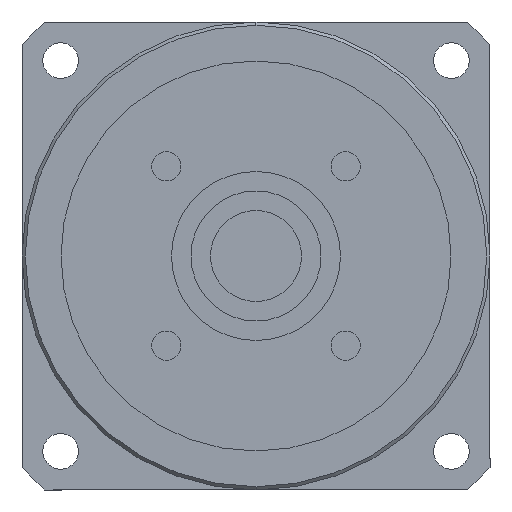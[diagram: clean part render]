
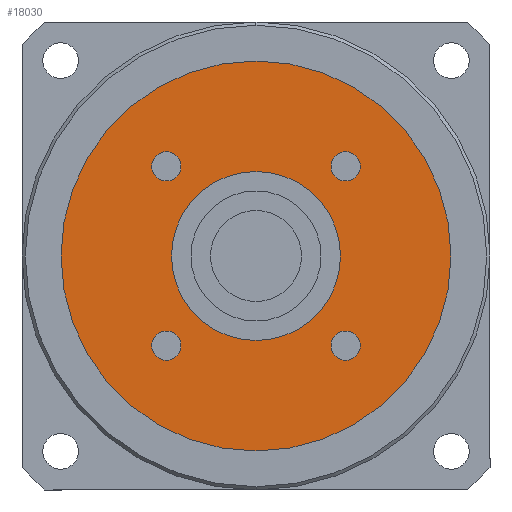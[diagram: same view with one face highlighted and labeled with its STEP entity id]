
A CAD part, left-side view. The second image highlights one B-rep face of the part: STEP entity #18030.
In plain terms, the highlighted planar face has unit normal (-1, 0, 0) as drawn and (0, 0, -1) by its records, which use the part's own axes.
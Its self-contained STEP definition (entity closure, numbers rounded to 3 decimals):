
#15130=CARTESIAN_POINT('',(-13.,0.,-91.));
#15140=VERTEX_POINT('',#15130);
#15320=CARTESIAN_POINT('',(13.,0.,-91.));
#15330=VERTEX_POINT('',#15320);
#15360=CARTESIAN_POINT('',(0.,0.,
-91.));
#15370=DIRECTION('',(0.,0.,1.));
#15380=DIRECTION('',(0.,-1.,0.));
#15390=AXIS2_PLACEMENT_3D('',#15360,#15370,#15380);
#15400=CIRCLE('',#15390,13.);
#15410=EDGE_CURVE('',#15330,#15140,#15400,.T.);
#15550=CARTESIAN_POINT('',(-11.539,-13.789,-91.));
#15560=VERTEX_POINT('',#15550);
#15740=CARTESIAN_POINT('',(-16.039,-13.789,-91.));
#15750=VERTEX_POINT('',#15740);
#15780=CARTESIAN_POINT('',(-13.789,-13.789,-91.));
#15790=DIRECTION('',(0.,0.,-1.));
#15800=DIRECTION('',(0.,-1.,0.));
#15810=AXIS2_PLACEMENT_3D('',#15780,#15790,#15800);
#15820=CIRCLE('',#15810,2.25);
#15830=EDGE_CURVE('',#15560,#15750,#15820,.T.);
#17150=CARTESIAN_POINT('',(30.,0.,-91.));
#17160=VERTEX_POINT('',#17150);
#17240=CARTESIAN_POINT('',(-30.,0.,-91.));
#17250=VERTEX_POINT('',#17240);
#17280=CARTESIAN_POINT('',(0.,0.,
-91.));
#17290=DIRECTION('',(0.,0.,1.));
#17300=DIRECTION('',(0.,-1.,0.));
#17310=AXIS2_PLACEMENT_3D('',#17280,#17290,#17300);
#17320=CIRCLE('',#17310,30.);
#17330=EDGE_CURVE('',#17160,#17250,#17320,.T.);
#17380=CARTESIAN_POINT('',(0.,0.,
-91.));
#17390=DIRECTION('',(0.,0.,1.));
#17400=DIRECTION('',(-1.,0.,0.));
#17410=AXIS2_PLACEMENT_3D('',#17380,#17390,#17400);
#17420=PLANE('',#17410);
#17430=CARTESIAN_POINT('',(13.789,-13.789,-91.));
#17440=DIRECTION('',(0.,0.,-1.));
#17450=DIRECTION('',(1.,0.,0.));
#17460=AXIS2_PLACEMENT_3D('',#17430,#17440,#17450);
#17470=CIRCLE('',#17460,2.25);
#17480=CARTESIAN_POINT('',(13.789,-11.539,-91.));
#17490=VERTEX_POINT('',#17480);
#17500=CARTESIAN_POINT('',(13.789,-16.039,-91.));
#17510=VERTEX_POINT('',#17500);
#17520=EDGE_CURVE('',#17490,#17510,#17470,.T.);
#17530=ORIENTED_EDGE('',*,*,#17520,.F.);
#17540=EDGE_CURVE('',#17510,#17490,#17470,.T.);
#17550=ORIENTED_EDGE('',*,*,#17540,.F.);
#17560=EDGE_LOOP('',(#17550,#17530));
#17570=FACE_BOUND('',#17560,.T.);
#17580=CARTESIAN_POINT('',(13.789,13.789,-91.));
#17590=DIRECTION('',(0.,0.,-1.));
#17600=DIRECTION('',(0.,1.,0.));
#17610=AXIS2_PLACEMENT_3D('',#17580,#17590,#17600);
#17620=CIRCLE('',#17610,2.25);
#17630=CARTESIAN_POINT('',(16.039,13.789,-91.));
#17640=VERTEX_POINT('',#17630);
#17650=CARTESIAN_POINT('',(11.539,13.789,-91.));
#17660=VERTEX_POINT('',#17650);
#17670=EDGE_CURVE('',#17640,#17660,#17620,.T.);
#17680=ORIENTED_EDGE('',*,*,#17670,.F.);
#17690=EDGE_CURVE('',#17660,#17640,#17620,.T.);
#17700=ORIENTED_EDGE('',*,*,#17690,.F.);
#17710=EDGE_LOOP('',(#17700,#17680));
#17720=FACE_BOUND('',#17710,.T.);
#17730=CARTESIAN_POINT('',(-13.789,13.789,-91.));
#17740=DIRECTION('',(0.,0.,-1.));
#17750=DIRECTION('',(-1.,0.,0.));
#17760=AXIS2_PLACEMENT_3D('',#17730,#17740,#17750);
#17770=CIRCLE('',#17760,2.25);
#17780=CARTESIAN_POINT('',(-13.789,11.539,-91.));
#17790=VERTEX_POINT('',#17780);
#17800=CARTESIAN_POINT('',(-13.789,16.039,-91.));
#17810=VERTEX_POINT('',#17800);
#17820=EDGE_CURVE('',#17790,#17810,#17770,.T.);
#17830=ORIENTED_EDGE('',*,*,#17820,.F.);
#17840=EDGE_CURVE('',#17810,#17790,#17770,.T.);
#17850=ORIENTED_EDGE('',*,*,#17840,.F.);
#17860=EDGE_LOOP('',(#17850,#17830));
#17870=FACE_BOUND('',#17860,.T.);
#17880=EDGE_CURVE('',#15750,#15560,#15820,.T.);
#17890=ORIENTED_EDGE('',*,*,#17880,.F.);
#17900=ORIENTED_EDGE('',*,*,#15830,.F.);
#17910=EDGE_LOOP('',(#17900,#17890));
#17920=FACE_BOUND('',#17910,.T.);
#17930=EDGE_CURVE('',#17250,#17160,#17320,.T.);
#17940=ORIENTED_EDGE('',*,*,#17930,.F.);
#17950=ORIENTED_EDGE('',*,*,#17330,.F.);
#17960=EDGE_LOOP('',(#17950,#17940));
#17970=FACE_OUTER_BOUND('',#17960,.T.);
#17980=EDGE_CURVE('',#15140,#15330,#15400,.T.);
#17990=ORIENTED_EDGE('',*,*,#17980,.T.);
#18000=ORIENTED_EDGE('',*,*,#15410,.T.);
#18010=EDGE_LOOP('',(#18000,#17990));
#18020=FACE_BOUND('',#18010,.T.);
#18030=ADVANCED_FACE('',(#17570,#17720,#17870,#17920,#17970,#18020),
#17420,.F.);
